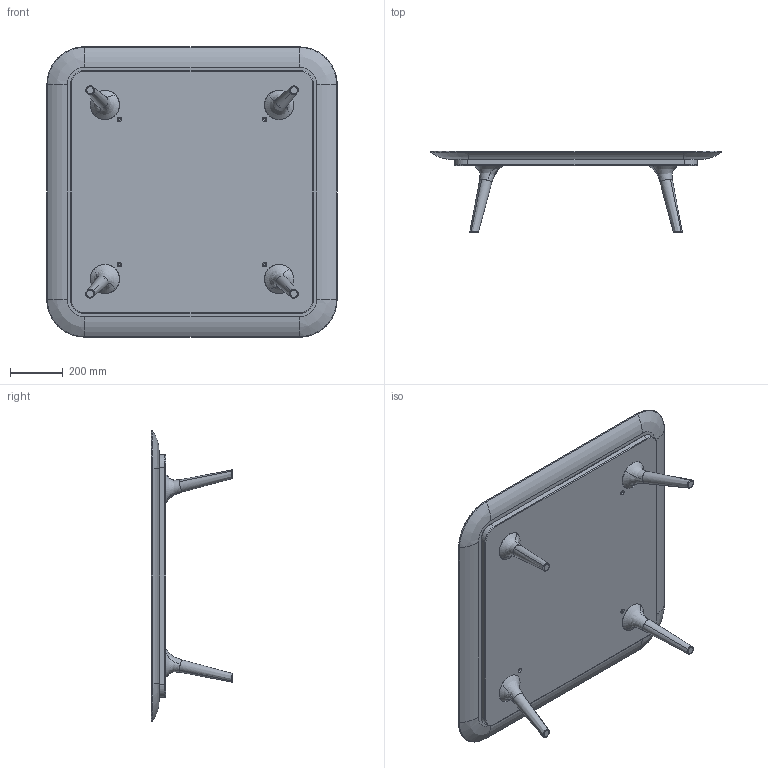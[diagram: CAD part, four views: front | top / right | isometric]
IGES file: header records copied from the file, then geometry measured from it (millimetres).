
Start section: SolidWorks IGES file using analytic representation for surfaces
Global section: file name: P:\Corporate Identity\4_Product_Content\2d3ddag_2014\Zio Coffee Table\3D\Zio_coffeetable_110x110.IGS; native system: SolidWorks 2014; preprocessor: SolidWorks 2014; author: iris; date: 140902.142125; units: millimetre
Bounding box: 1100.46 x 309 x 1100.44 mm (x, y, z)
Volume: 56150053.4 mm3; surface area: 4423632.8 mm2
Topology: 6 solids, 6 shells, 180 faces, 393 edges, 246 vertices
Faces by surface type: revolution 127, plane 37, bspline 16
